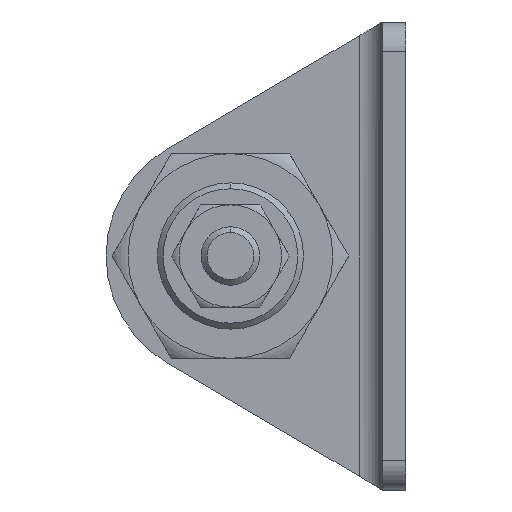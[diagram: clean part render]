
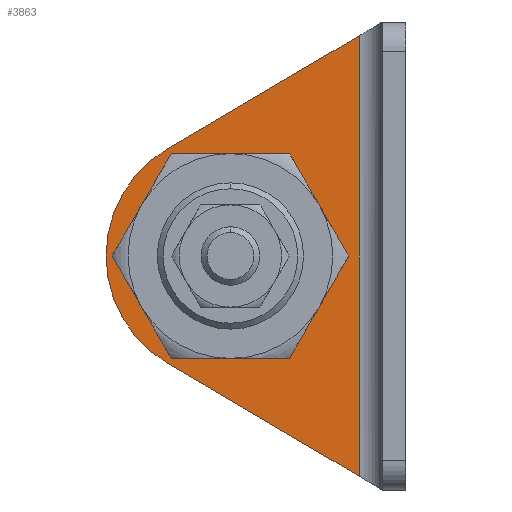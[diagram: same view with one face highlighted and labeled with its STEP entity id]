
A CAD part, left-side view. The second image highlights one B-rep face of the part: STEP entity #3863.
In plain terms, the highlighted planar face has unit normal (-1, 0, 0).
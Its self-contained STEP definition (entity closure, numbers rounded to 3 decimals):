
#73 = LINE ( 'NONE', #345, #335 ) ;
#106 = AXIS2_PLACEMENT_3D ( 'NONE', #2358, #1332, #309 ) ;
#121 = CARTESIAN_POINT ( 'NONE',  ( -1.6, 16.317, -7.322 ) ) ;
#171 = ORIENTED_EDGE ( 'NONE', *, *, #3965, .F. ) ;
#234 = CIRCLE ( 'NONE', #106, 8.5 ) ;
#300 = ORIENTED_EDGE ( 'NONE', *, *, #1464, .F. ) ;
#309 = DIRECTION ( 'NONE',  ( 0., -1., 0. ) ) ;
#335 = VECTOR ( 'NONE', #3179, 1000. ) ;
#345 = CARTESIAN_POINT ( 'NONE',  ( -1.6, 1.6, 16. ) ) ;
#453 = CARTESIAN_POINT ( 'NONE',  ( -1.6, 3.2, -15.057 ) ) ;
#471 = VERTEX_POINT ( 'NONE', #453 ) ;
#509 = EDGE_LOOP ( 'NONE', ( #2734, #2374, #3769, #1460 ) ) ;
#562 = CARTESIAN_POINT ( 'NONE',  ( -1.6, 12., 0. ) ) ;
#694 = DIRECTION ( 'NONE',  ( 0., -1., 0. ) ) ;
#760 = CARTESIAN_POINT ( 'NONE',  ( -1.6, 12., 0. ) ) ;
#782 = VERTEX_POINT ( 'NONE', #121 ) ;
#890 = VERTEX_POINT ( 'NONE', #2394 ) ;
#1002 = DIRECTION ( 'NONE',  ( 0., -1., 0. ) ) ;
#1019 = DIRECTION ( 'NONE',  ( -1., 0., 0. ) ) ;
#1297 = EDGE_CURVE ( 'NONE', #890, #1324, #73, .T. ) ;
#1324 = VERTEX_POINT ( 'NONE', #3065 ) ;
#1332 = DIRECTION ( 'NONE',  ( -1., 0., 0. ) ) ;
#1460 = ORIENTED_EDGE ( 'NONE', *, *, #2621, .F. ) ;
#1464 = EDGE_CURVE ( 'NONE', #2256, #2224, #2746, .T. ) ;
#1784 = CARTESIAN_POINT ( 'NONE',  ( -1.6, 1.6, 16. ) ) ;
#1803 = CARTESIAN_POINT ( 'NONE',  ( -1.6, 17.7, 0. ) ) ;
#1823 = EDGE_LOOP ( 'NONE', ( #171, #300 ) ) ;
#1902 = DIRECTION ( 'NONE',  ( -1., 0., 0. ) ) ;
#1916 = AXIS2_PLACEMENT_3D ( 'NONE', #562, #2233, #2176 ) ;
#2176 = DIRECTION ( 'NONE',  ( 0., -1., 0. ) ) ;
#2224 = VERTEX_POINT ( 'NONE', #3059 ) ;
#2233 = DIRECTION ( 'NONE',  ( -1., 0., 0. ) ) ;
#2256 = VERTEX_POINT ( 'NONE', #1803 ) ;
#2350 = PLANE ( 'NONE',  #3916 ) ;
#2358 = CARTESIAN_POINT ( 'NONE',  ( -1.6, 12., 0. ) ) ;
#2374 = ORIENTED_EDGE ( 'NONE', *, *, #3131, .T. ) ;
#2394 = CARTESIAN_POINT ( 'NONE',  ( -1.6, 3.2, 15.057 ) ) ;
#2560 = CARTESIAN_POINT ( 'NONE',  ( -1.6, 15.601, -7.744 ) ) ;
#2621 = EDGE_CURVE ( 'NONE', #890, #471, #3109, .T. ) ;
#2651 = EDGE_CURVE ( 'NONE', #782, #471, #2886, .T. ) ;
#2664 = DIRECTION ( 'NONE',  ( 0., 0., -1. ) ) ;
#2734 = ORIENTED_EDGE ( 'NONE', *, *, #1297, .T. ) ;
#2746 = CIRCLE ( 'NONE', #3681, 5.7 ) ;
#2754 = FACE_OUTER_BOUND ( 'NONE', #509, .T. ) ;
#2886 = LINE ( 'NONE', #2560, #2996 ) ;
#2949 = FACE_BOUND ( 'NONE', #1823, .T. ) ;
#2996 = VECTOR ( 'NONE', #3898, 1000. ) ;
#3059 = CARTESIAN_POINT ( 'NONE',  ( -1.6, 6.3, 0. ) ) ;
#3065 = CARTESIAN_POINT ( 'NONE',  ( -1.6, 16.317, 7.322 ) ) ;
#3109 = LINE ( 'NONE', #3340, #3480 ) ;
#3131 = EDGE_CURVE ( 'NONE', #1324, #782, #234, .T. ) ;
#3179 = DIRECTION ( 'NONE',  ( 0., 0.861, -0.508 ) ) ;
#3340 = CARTESIAN_POINT ( 'NONE',  ( -1.6, 3.2, 16. ) ) ;
#3480 = VECTOR ( 'NONE', #2664, 1000. ) ;
#3681 = AXIS2_PLACEMENT_3D ( 'NONE', #760, #1019, #694 ) ;
#3685 = CIRCLE ( 'NONE', #1916, 5.7 ) ;
#3769 = ORIENTED_EDGE ( 'NONE', *, *, #2651, .T. ) ;
#3863 = ADVANCED_FACE ( 'NONE', ( #2949, #2754 ), #2350, .T. ) ;
#3898 = DIRECTION ( 'NONE',  ( 0., -0.861, -0.508 ) ) ;
#3916 = AXIS2_PLACEMENT_3D ( 'NONE', #1784, #1902, #1002 ) ;
#3965 = EDGE_CURVE ( 'NONE', #2224, #2256, #3685, .T. ) ;
